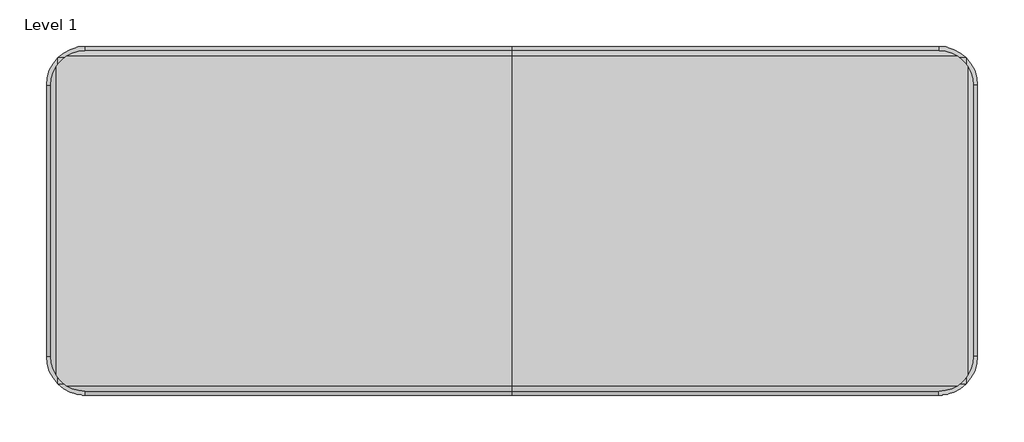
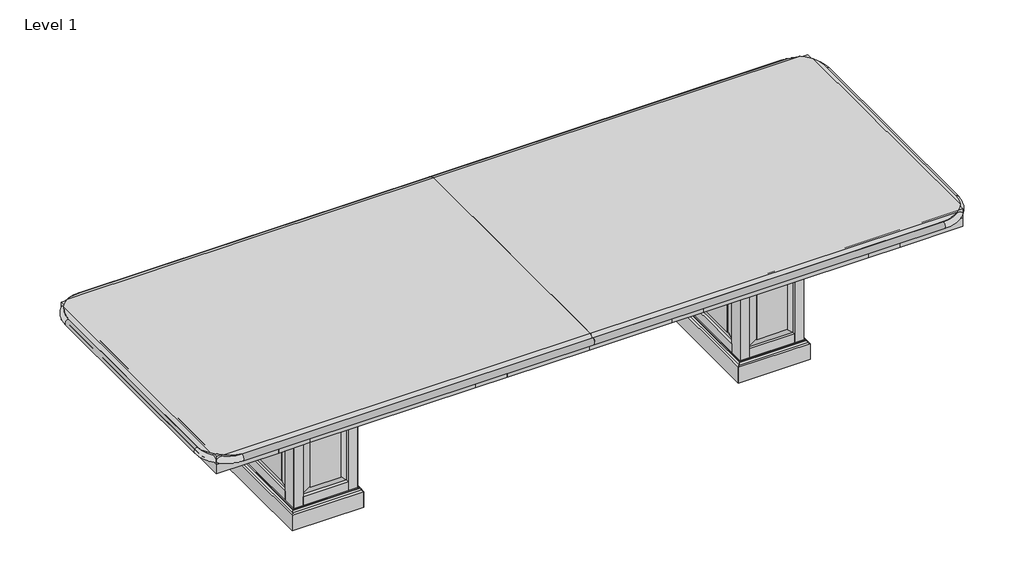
# One storey: 15 proxies.
"""IFC4 building model written with IfcOpenShell, lengths in millimetres."""

from ifc_helpers import new_model, si_unit, origin, place, context, project, spatial, transform, mapped, element, save
from components import generic_models_56c868ac, generic_models_7dbeee87, generic_models_b96f83d2, generic_models_1f10b902

model = new_model("IFC4")

# Units and contexts
model_context = context("Model", 3, world=origin())
ifc_project = project(units=[si_unit("LENGTHUNIT", "METRE", prefix="MILLI")], contexts=[model_context])

# Site, building, storey
site = spatial("IfcSite", under=ifc_project)
building = spatial("IfcBuilding", under=site)
storey = spatial("IfcBuildingStorey", under=building, Name="Level 1", Elevation=0.0)

# Proxies
placement = place(None, origin())
generic_models_shape = generic_models_56c868ac(model_context)
element("IfcBuildingElementProxy", 1, Name="CAMBRIDGE^TABLE 4_54144 2 PC-PARTS SOLID", ObjectType="CAMBRIDGE^TABLE 4_54144 2 PC-PARTS SOLID", at=placement, inside=storey, context=model_context, shape_type="MappedRepresentation", body=[
    mapped(generic_models_shape, transform((-1913.8228174, 674.6738126, -816.6878794), x_axis=(1.0, 0.0, 0.0), y_axis=(0.0, 0.0, 1.0), z_axis=(0.0, -1.0, 0.0))),
])
generic_models_2_shape = generic_models_7dbeee87(model_context)
element("IfcBuildingElementProxy", 2, Name="CAMBRIDGE^TABLE 4_54144 2 PC-KEEL", ObjectType="CAMBRIDGE^TABLE 4_54144 2 PC-KEEL", at=placement, inside=storey, context=model_context, shape_type="MappedRepresentation", body=[
    mapped(generic_models_2_shape, transform((-1609.0228174, 1595.4238126, -918.2878794), x_axis=(1.0, 0.0, 0.0), y_axis=(0.0, 0.0, 1.0), z_axis=(0.0, -1.0, 0.0))),
])
element("IfcBuildingElementProxy", 3, Name="CAMBRIDGE^TABLE 4_54144 2 PC-KEEL", ObjectType="CAMBRIDGE^TABLE 4_54144 2 PC-KEEL", at=placement, inside=storey, context=model_context, shape_type="MappedRepresentation", body=[
    mapped(generic_models_2_shape, transform((-1609.0228174, 1157.2738126, -918.2878794), x_axis=(1.0, 0.0, 0.0), y_axis=(0.0, 0.0, 1.0), z_axis=(0.0, -1.0, 0.0))),
])
generic_models_3_shape = generic_models_b96f83d2(model_context)
element("IfcBuildingElementProxy", 4, Name="ASHLEY DUO UNDERMOUNT", ObjectType="ASHLEY DUO UNDERMOUNT", at=placement, inside=storey, context=model_context, shape_type="MappedRepresentation", body=[
    mapped(generic_models_3_shape, transform((-478.7228174, 1930.4498126, -873.8378794), x_axis=(-1.0, 0.0, 0.0), y_axis=(0.0, 0.0, 1.0), z_axis=(0.0, 1.0, 0.0))),
])
element("IfcBuildingElementProxy", 5, Name="ASHLEY DUO UNDERMOUNT", ObjectType="ASHLEY DUO UNDERMOUNT", at=placement, inside=storey, context=model_context, shape_type="MappedRepresentation", body=[
    mapped(generic_models_3_shape, transform((-631.1228174, 790.4978126, -873.8378794), x_axis=(1.0, 0.0, 0.0), y_axis=(0.0, 0.0, 1.0), z_axis=(0.0, -1.0, 0.0))),
])
element("IfcBuildingElementProxy", 6, Name="ASHLEY DUO UNDERMOUNT", ObjectType="ASHLEY DUO UNDERMOUNT", at=placement, inside=storey, context=model_context, shape_type="MappedRepresentation", body=[
    mapped(generic_models_3_shape, transform((-1418.5228174, 1930.4498126, -873.8378794), x_axis=(-1.0, 0.0, 0.0), y_axis=(0.0, 0.0, 1.0), z_axis=(0.0, 1.0, 0.0))),
])
element("IfcBuildingElementProxy", 7, Name="ASHLEY DUO UNDERMOUNT", ObjectType="ASHLEY DUO UNDERMOUNT", at=placement, inside=storey, context=model_context, shape_type="MappedRepresentation", body=[
    mapped(generic_models_3_shape, transform((1627.9531826, 1550.9738126, -873.8378794), x_axis=(0.0, 1.0, 0.0), y_axis=(0.0, 0.0, 1.0), z_axis=(1.0, 0.0, 0.0))),
])
element("IfcBuildingElementProxy", 8, Name="ASHLEY DUO UNDERMOUNT", ObjectType="ASHLEY DUO UNDERMOUNT", at=placement, inside=storey, context=model_context, shape_type="MappedRepresentation", body=[
    mapped(generic_models_3_shape, transform((-1570.9228174, 790.4978126, -873.8378794), x_axis=(1.0, 0.0, 0.0), y_axis=(0.0, 0.0, 1.0), z_axis=(0.0, -1.0, 0.0))),
])
element("IfcBuildingElementProxy", 9, Name="ASHLEY DUO UNDERMOUNT", ObjectType="ASHLEY DUO UNDERMOUNT", at=placement, inside=storey, context=model_context, shape_type="MappedRepresentation", body=[
    mapped(generic_models_3_shape, transform((1248.4771826, 790.4978126, -873.8378794), x_axis=(1.0, 0.0, 0.0), y_axis=(0.0, 0.0, 1.0), z_axis=(0.0, -1.0, 0.0))),
])
element("IfcBuildingElementProxy", 10, Name="ASHLEY DUO UNDERMOUNT", ObjectType="ASHLEY DUO UNDERMOUNT", at=placement, inside=storey, context=model_context, shape_type="MappedRepresentation", body=[
    mapped(generic_models_3_shape, transform((1400.8771826, 1930.4498126, -873.8378794), x_axis=(-1.0, 0.0, 0.0), y_axis=(0.0, 0.0, 1.0), z_axis=(0.0, 1.0, 0.0))),
])
element("IfcBuildingElementProxy", 11, Name="ASHLEY DUO UNDERMOUNT", ObjectType="ASHLEY DUO UNDERMOUNT", at=placement, inside=storey, context=model_context, shape_type="MappedRepresentation", body=[
    mapped(generic_models_3_shape, transform((308.6771826, 790.4978126, -873.8378794), x_axis=(1.0, 0.0, 0.0), y_axis=(0.0, 0.0, 1.0), z_axis=(0.0, -1.0, 0.0))),
])
element("IfcBuildingElementProxy", 12, Name="ASHLEY DUO UNDERMOUNT", ObjectType="ASHLEY DUO UNDERMOUNT", at=placement, inside=storey, context=model_context, shape_type="MappedRepresentation", body=[
    mapped(generic_models_3_shape, transform((461.0771826, 1930.4498126, -873.8378794), x_axis=(-1.0, 0.0, 0.0), y_axis=(0.0, 0.0, 1.0), z_axis=(0.0, 1.0, 0.0))),
])
element("IfcBuildingElementProxy", 13, Name="ASHLEY DUO UNDERMOUNT", ObjectType="ASHLEY DUO UNDERMOUNT", at=placement, inside=storey, context=model_context, shape_type="MappedRepresentation", body=[
    mapped(generic_models_3_shape, transform((-1797.9988174, 1169.9738126, -873.8378794), x_axis=(0.0, -1.0, 0.0), y_axis=(0.0, 0.0, 1.0), z_axis=(-1.0, 0.0, 0.0))),
])
generic_models_4_shape = generic_models_1f10b902(model_context)
element("IfcBuildingElementProxy", 14, Name="CAMBRIDGE^TABLE 4_HINGED DOOR BASE-ASSEMBLY", ObjectType="CAMBRIDGE^TABLE 4_HINGED DOOR BASE-ASSEMBLY", at=placement, inside=storey, context=model_context, shape_type="MappedRepresentation", body=[
    mapped(generic_models_4_shape, transform((-999.4228174, 1055.6738126, -1546.9378794), x_axis=(0.0, 1.0, 0.0), y_axis=(0.0, 0.0, 1.0), z_axis=(1.0, 0.0, 0.0))),
])
element("IfcBuildingElementProxy", 15, Name="CAMBRIDGE^TABLE 4_HINGED DOOR BASE-ASSEMBLY_1", ObjectType="CAMBRIDGE^TABLE 4_HINGED DOOR BASE-ASSEMBLY_1", at=placement, inside=storey, context=model_context, shape_type="MappedRepresentation", body=[
    mapped(generic_models_4_shape, transform((829.3771826, 1665.2738126, -1546.9378794), x_axis=(0.0, -1.0, 0.0), y_axis=(0.0, 0.0, 1.0), z_axis=(-1.0, 0.0, 0.0))),
])

save(model, "model.ifc")
